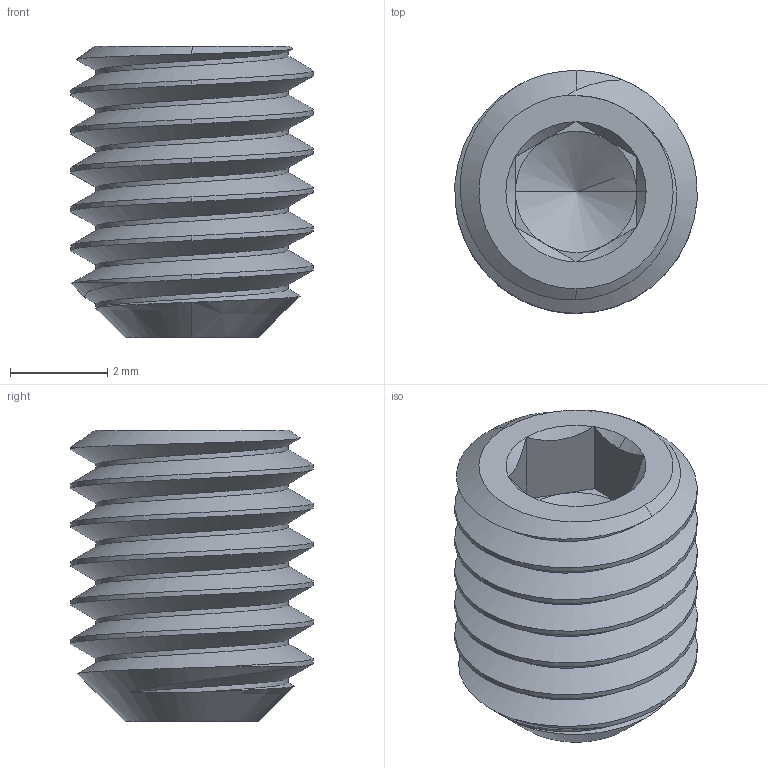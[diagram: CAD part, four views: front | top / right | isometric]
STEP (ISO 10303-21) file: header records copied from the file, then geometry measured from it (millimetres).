
FILE_DESCRIPTION (( 'STEP AP203' ), '1' );
FILE_NAME ('2806-0004-0006.STEP', '2017-04-05T21:01:16', ( '' ), ( '' ), 'SwSTEP 2.0', 'SolidWorks 2016', '' );
FILE_SCHEMA (( 'CONFIG_CONTROL_DESIGN' ));
Length unit declared in the file: millimetre
Products named in the file (1): 2806-0004-0006
Bounding box: 4.99 x 5 x 6 mm (x, y, z)
Volume: 78.6 mm3; surface area: 173.2 mm2
Topology: 1 solids, 1 shells, 45 faces, 109 edges, 63 vertices
Faces by surface type: cone 16, cylinder 13, plane 13, bspline 3
Entity records: 2611 total; most frequent: CARTESIAN_POINT 1628, ORIENTED_EDGE 210, DIRECTION 165, EDGE_CURVE 105, VERTEX_POINT 63, AXIS2_PLACEMENT_3D 63, EDGE_LOOP 46, ADVANCED_FACE 45
